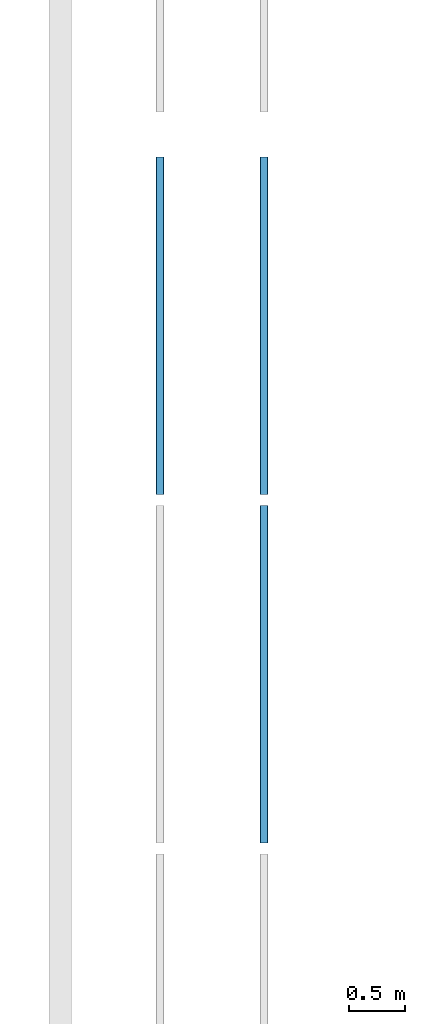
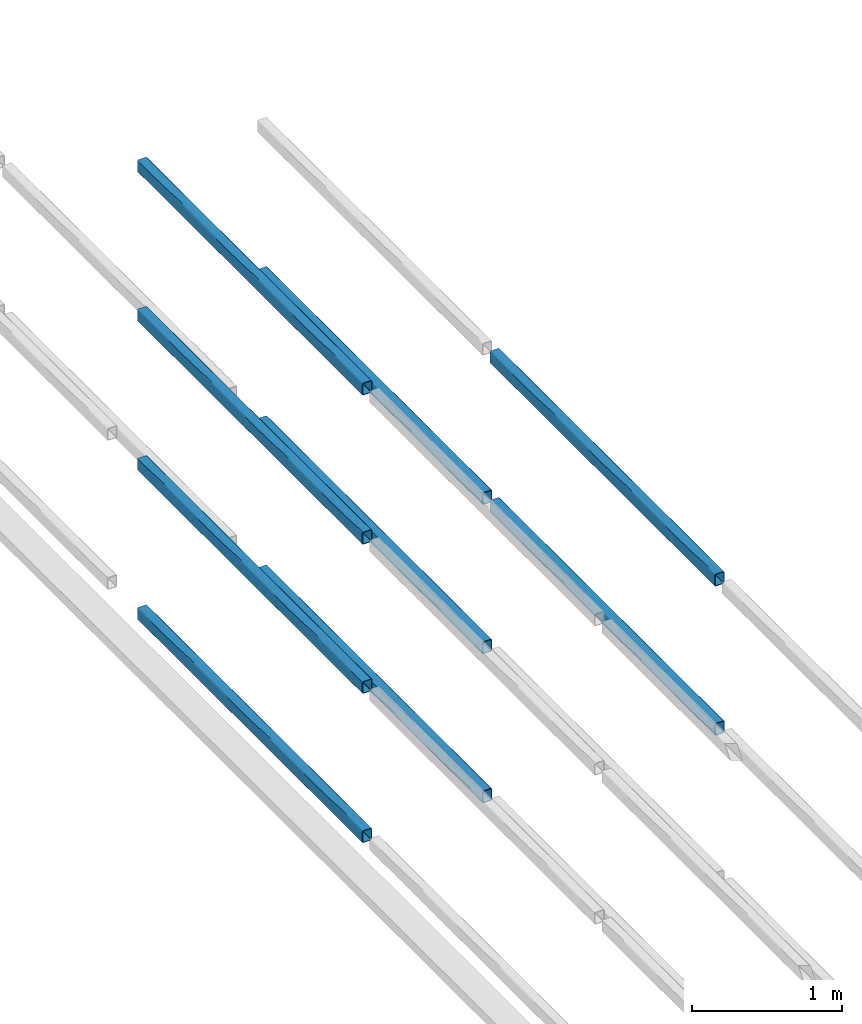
# One storey, part 16 of 290: 9 beams.
"""IFC2X3 building model written with IfcOpenShell, lengths in metres."""

from ifc_helpers import new_model, entity, si_unit, converted_unit, derived_unit, direction, frame, frame_2d, origin, place, context, subcontext, project, spatial, polyline, circle_curve, parameter, trimmed, segment, composite_curve, outline, extrude, material, type_object, element, save


model = new_model("IFC2X3")

# Units and contexts
model_context = context("Model", 3, precision=1e-05, world=origin(), true_north=direction((6.12303176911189e-17, 1.0)))
body_context = subcontext(model_context, "Body", "Model", "MODEL_VIEW")
ifc_project = project(units=[si_unit("LENGTHUNIT", "METRE"), si_unit("AREAUNIT", "SQUARE_METRE"), si_unit("VOLUMEUNIT", "CUBIC_METRE"), converted_unit("PLANEANGLEUNIT", "DEGREE", entity("IfcRatioMeasure", 0.0174532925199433), si_unit("PLANEANGLEUNIT", "RADIAN"), dimensions=[0, 0, 0, 0, 0, 0, 0]), si_unit("MASSUNIT", "GRAM", prefix="KILO"), derived_unit("MASSDENSITYUNIT", [(si_unit("MASSUNIT", "GRAM", prefix="KILO"), 1), (si_unit("LENGTHUNIT", "METRE"), -3)]), derived_unit("MOMENTOFINERTIAUNIT", [(si_unit("LENGTHUNIT", "METRE"), 4)]), si_unit("TIMEUNIT", "SECOND"), si_unit("FREQUENCYUNIT", "HERTZ"), si_unit("THERMODYNAMICTEMPERATUREUNIT", "DEGREE_CELSIUS"), derived_unit("THERMALTRANSMITTANCEUNIT", [(si_unit("MASSUNIT", "GRAM", prefix="KILO"), 1), (si_unit("THERMODYNAMICTEMPERATUREUNIT", "KELVIN"), -1), (si_unit("TIMEUNIT", "SECOND"), -3)]), derived_unit("VOLUMETRICFLOWRATEUNIT", [(si_unit("LENGTHUNIT", "METRE"), 3), (si_unit("TIMEUNIT", "SECOND"), -1)]), si_unit("ELECTRICCURRENTUNIT", "AMPERE"), si_unit("ELECTRICVOLTAGEUNIT", "VOLT"), si_unit("POWERUNIT", "WATT"), si_unit("FORCEUNIT", "NEWTON", prefix="KILO"), si_unit("ILLUMINANCEUNIT", "LUX"), si_unit("LUMINOUSFLUXUNIT", "LUMEN"), si_unit("LUMINOUSINTENSITYUNIT", "CANDELA"), derived_unit("USERDEFINED", [(si_unit("MASSUNIT", "GRAM", prefix="KILO"), -1), (si_unit("LENGTHUNIT", "METRE"), -2), (si_unit("TIMEUNIT", "SECOND"), 3), (si_unit("LUMINOUSFLUXUNIT", "LUMEN"), 1)]), derived_unit("LINEARVELOCITYUNIT", [(si_unit("LENGTHUNIT", "METRE"), 1), (si_unit("TIMEUNIT", "SECOND"), -1)]), si_unit("PRESSUREUNIT", "PASCAL"), derived_unit("USERDEFINED", [(si_unit("LENGTHUNIT", "METRE"), -2), (si_unit("MASSUNIT", "GRAM", prefix="KILO"), 1), (si_unit("TIMEUNIT", "SECOND"), -2)]), derived_unit("LINEARFORCEUNIT", [(si_unit("MASSUNIT", "GRAM", prefix="KILO"), 1), (si_unit("LENGTHUNIT", "METRE"), 1), (si_unit("TIMEUNIT", "SECOND"), -2), (si_unit("LENGTHUNIT", "METRE"), -1)]), derived_unit("PLANARFORCEUNIT", [(si_unit("MASSUNIT", "GRAM", prefix="KILO"), 1), (si_unit("LENGTHUNIT", "METRE"), 1), (si_unit("TIMEUNIT", "SECOND"), -2), (si_unit("LENGTHUNIT", "METRE"), -2)])], contexts=[model_context])

# Site, building, storey
site_placement = place(None, origin())
site = spatial("IfcSite", under=ifc_project, at=site_placement, Name="Default", CompositionType="ELEMENT")
building_placement = place(site_placement, origin())
building = spatial("IfcBuilding", under=site, at=building_placement, CompositionType="ELEMENT")
storey_placement = place(building_placement, frame((0.0, 0.0, 4.0)))
storey = spatial("IfcBuildingStorey", under=building, at=storey_placement, Name="01_OG", CompositionType="ELEMENT", Elevation=4.0)

# Beams
ifc_material = material(Name="Metall - Baustahl S235 blau")
beam_type = type_object("IfcBeamType", Name="RHS Träger (EN 10219-2):RHS 100 x 75 x 5", PredefinedType="NOTDEFINED")
beam_1_placement = place(storey_placement, frame((-205.565111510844, 48.848088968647, 1.23), z_axis=(0.0, 0.0, 1.0), x_axis=(0.0, 1.0, 0.0)))
element("IfcBeam", 1, at=beam_1_placement, inside=storey, type_object=beam_type, material=ifc_material, Name="RHS Träger (EN 10219-2):RHS 100 x 75 x 5", ObjectType="RHS Träger (EN 10219-2):RHS 100 x 75 x 5", context=body_context, shape_type="SweptSolid", body=[
    extrude(outline(composite_curve([segment(polyline([(-0.0399999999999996, -0.0374999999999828), (0.0399999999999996, -0.0374999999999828)]), True, "CONTINUOUS"), segment(trimmed(circle_curve(frame_2d((0.0399999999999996, -0.0274999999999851), x_axis=(0.0, 1.0)), 0.01), [parameter(180.0)], [parameter(270.0)], True, "PARAMETER"), True, "CONTINUOUS"), segment(polyline([(0.0500000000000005, -0.0274999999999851), (0.0500000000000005, 0.0274999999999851)]), True, "CONTINUOUS"), segment(trimmed(circle_curve(frame_2d((0.0399999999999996, 0.0274999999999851), x_axis=(0.0, 1.0)), 0.01), [parameter(270.0)], [parameter(4.07110999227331e-13)], True, "PARAMETER"), True, "CONTINUOUS"), segment(polyline([(0.0399999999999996, 0.0375000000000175), (-0.0399999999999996, 0.0375000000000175)]), True, "CONTINUOUS"), segment(trimmed(circle_curve(frame_2d((-0.0399999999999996, 0.0274999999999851), x_axis=(0.0, 1.0)), 0.01), [parameter(360.0)], [parameter(90.0000000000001)], True, "PARAMETER"), True, "CONTINUOUS"), segment(polyline([(-0.0499999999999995, 0.0274999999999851), (-0.0499999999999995, -0.0274999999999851)]), True, "CONTINUOUS"), segment(trimmed(circle_curve(frame_2d((-0.0399999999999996, -0.0274999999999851), x_axis=(0.0, 1.0)), 0.01), [parameter(90.0000000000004)], [parameter(180.0)], True, "PARAMETER"), True, "CONTINUOUS")], self_intersect=False), holes=[composite_curve([segment(trimmed(circle_curve(frame_2d((-0.0400000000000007, 0.0274999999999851), x_axis=(0.0, 1.0)), 0.005), [parameter(360.0)], [parameter(89.9999999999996)], True, "PARAMETER"), False, "CONTINUOUS"), segment(polyline([(-0.0400000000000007, 0.0325000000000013), (0.0399999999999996, 0.0325000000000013)]), True, "CONTINUOUS"), segment(trimmed(circle_curve(frame_2d((0.0399999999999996, 0.0274999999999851), x_axis=(0.0, 1.0)), 0.005), [parameter(270.0)], [parameter(0.0)], True, "PARAMETER"), False, "CONTINUOUS"), segment(polyline([(0.0449999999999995, 0.0274999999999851), (0.0449999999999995, -0.0274999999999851)]), True, "CONTINUOUS"), segment(trimmed(circle_curve(frame_2d((0.0399999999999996, -0.0274999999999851), x_axis=(0.0, 1.0)), 0.005), [parameter(180.0)], [parameter(269.999999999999)], True, "PARAMETER"), False, "CONTINUOUS"), segment(polyline([(0.0399999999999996, -0.0325000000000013), (-0.0400000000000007, -0.0325000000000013)]), True, "CONTINUOUS"), segment(trimmed(circle_curve(frame_2d((-0.0400000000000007, -0.0274999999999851), x_axis=(0.0, 1.0)), 0.005), [parameter(90.0000000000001)], [parameter(180.0)], True, "PARAMETER"), False, "CONTINUOUS"), segment(polyline([(-0.0450000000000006, -0.0274999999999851), (-0.0450000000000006, 0.0274999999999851)]), True, "CONTINUOUS")], self_intersect=False)]), frame((0.000100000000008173, -0.0375000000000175, -0.0500000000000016), z_axis=(1.0, 0.0, 0.0), x_axis=(0.0, 0.0, -1.0)), (0.0, 0.0, 1.0), 2.99979999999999),
])
beam_2_placement = place(storey_placement, frame((-205.565111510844, 48.848088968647, 2.445), z_axis=(0.0, 0.0, 1.0), x_axis=(0.0, 1.0, 0.0)))
element("IfcBeam", 2, at=beam_2_placement, inside=storey, type_object=beam_type, material=ifc_material, Name="RHS Träger (EN 10219-2):RHS 100 x 75 x 5", ObjectType="RHS Träger (EN 10219-2):RHS 100 x 75 x 5", context=body_context, shape_type="SweptSolid", body=[
    extrude(outline(composite_curve([segment(polyline([(-0.0399999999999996, -0.0374999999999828), (0.0399999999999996, -0.0374999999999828)]), True, "CONTINUOUS"), segment(trimmed(circle_curve(frame_2d((0.0399999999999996, -0.0274999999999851), x_axis=(0.0, 1.0)), 0.01), [parameter(180.0)], [parameter(270.0)], True, "PARAMETER"), True, "CONTINUOUS"), segment(polyline([(0.0500000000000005, -0.0274999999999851), (0.0500000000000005, 0.0274999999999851)]), True, "CONTINUOUS"), segment(trimmed(circle_curve(frame_2d((0.0399999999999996, 0.0274999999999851), x_axis=(0.0, 1.0)), 0.01), [parameter(270.0)], [parameter(4.07110999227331e-13)], True, "PARAMETER"), True, "CONTINUOUS"), segment(polyline([(0.0399999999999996, 0.0375000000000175), (-0.0399999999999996, 0.0375000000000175)]), True, "CONTINUOUS"), segment(trimmed(circle_curve(frame_2d((-0.0399999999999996, 0.0274999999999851), x_axis=(0.0, 1.0)), 0.01), [parameter(360.0)], [parameter(90.0000000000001)], True, "PARAMETER"), True, "CONTINUOUS"), segment(polyline([(-0.0499999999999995, 0.0274999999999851), (-0.0499999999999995, -0.0274999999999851)]), True, "CONTINUOUS"), segment(trimmed(circle_curve(frame_2d((-0.0399999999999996, -0.0274999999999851), x_axis=(0.0, 1.0)), 0.01), [parameter(90.0000000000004)], [parameter(180.0)], True, "PARAMETER"), True, "CONTINUOUS")], self_intersect=False), holes=[composite_curve([segment(trimmed(circle_curve(frame_2d((-0.0400000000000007, 0.0274999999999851), x_axis=(0.0, 1.0)), 0.005), [parameter(360.0)], [parameter(89.9999999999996)], True, "PARAMETER"), False, "CONTINUOUS"), segment(polyline([(-0.0400000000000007, 0.0325000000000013), (0.0399999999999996, 0.0325000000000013)]), True, "CONTINUOUS"), segment(trimmed(circle_curve(frame_2d((0.0399999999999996, 0.0274999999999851), x_axis=(0.0, 1.0)), 0.005), [parameter(270.0)], [parameter(0.0)], True, "PARAMETER"), False, "CONTINUOUS"), segment(polyline([(0.0449999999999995, 0.0274999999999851), (0.0449999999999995, -0.0274999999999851)]), True, "CONTINUOUS"), segment(trimmed(circle_curve(frame_2d((0.0399999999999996, -0.0274999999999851), x_axis=(0.0, 1.0)), 0.005), [parameter(180.0)], [parameter(269.999999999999)], True, "PARAMETER"), False, "CONTINUOUS"), segment(polyline([(0.0399999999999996, -0.0325000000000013), (-0.0400000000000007, -0.0325000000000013)]), True, "CONTINUOUS"), segment(trimmed(circle_curve(frame_2d((-0.0400000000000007, -0.0274999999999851), x_axis=(0.0, 1.0)), 0.005), [parameter(90.0000000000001)], [parameter(180.0)], True, "PARAMETER"), False, "CONTINUOUS"), segment(polyline([(-0.0450000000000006, -0.0274999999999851), (-0.0450000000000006, 0.0274999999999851)]), True, "CONTINUOUS")], self_intersect=False)]), frame((0.000100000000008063, -0.0375000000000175, -0.0500000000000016), z_axis=(1.0, 0.0, 0.0), x_axis=(0.0, 0.0, -1.0)), (0.0, 0.0, 1.0), 2.99979999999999),
])
beam_3_placement = place(storey_placement, frame((-206.415111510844, 51.948088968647, -1.2), z_axis=(0.0, 0.0, 1.0), x_axis=(0.0, 1.0, 0.0)))
element("IfcBeam", 3, at=beam_3_placement, inside=storey, type_object=beam_type, material=ifc_material, Name="RHS Träger (EN 10219-2):RHS 100 x 75 x 5", ObjectType="RHS Träger (EN 10219-2):RHS 100 x 75 x 5", context=body_context, shape_type="SweptSolid", body=[
    extrude(outline(composite_curve([segment(trimmed(circle_curve(frame_2d((-0.0274999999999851, -0.0400000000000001), x_axis=(1.0, 0.0)), 0.01), [parameter(180.0)], [parameter(270.0)], True, "PARAMETER"), True, "CONTINUOUS"), segment(polyline([(-0.0274999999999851, -0.05), (0.0274999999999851, -0.05)]), True, "CONTINUOUS"), segment(trimmed(circle_curve(frame_2d((0.0274999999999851, -0.0400000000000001), x_axis=(1.0, 0.0)), 0.01), [parameter(270.0)], [parameter(5.08888749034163e-14)], True, "PARAMETER"), True, "CONTINUOUS"), segment(polyline([(0.0375000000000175, -0.0400000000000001), (0.0375000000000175, 0.0400000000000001)]), True, "CONTINUOUS"), segment(trimmed(circle_curve(frame_2d((0.0274999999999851, 0.0400000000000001), x_axis=(1.0, 0.0)), 0.01), [parameter(360.0)], [parameter(89.9999999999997)], True, "PARAMETER"), True, "CONTINUOUS"), segment(polyline([(0.0274999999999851, 0.05), (-0.0274999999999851, 0.05)]), True, "CONTINUOUS"), segment(trimmed(circle_curve(frame_2d((-0.0274999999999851, 0.0400000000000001), x_axis=(1.0, 0.0)), 0.01), [parameter(90.0000000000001)], [parameter(180.0)], True, "PARAMETER"), True, "CONTINUOUS"), segment(polyline([(-0.0374999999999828, 0.0400000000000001), (-0.0374999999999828, -0.0400000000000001)]), True, "CONTINUOUS")], self_intersect=False), holes=[composite_curve([segment(polyline([(0.0274999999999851, -0.0450000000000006), (-0.0274999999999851, -0.0450000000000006)]), True, "CONTINUOUS"), segment(trimmed(circle_curve(frame_2d((-0.0274999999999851, -0.0400000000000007), x_axis=(1.0, 0.0)), 0.005), [parameter(180.0)], [parameter(270.0)], True, "PARAMETER"), False, "CONTINUOUS"), segment(polyline([(-0.0325000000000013, -0.0400000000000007), (-0.0325000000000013, 0.039999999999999)]), True, "CONTINUOUS"), segment(trimmed(circle_curve(frame_2d((-0.0274999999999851, 0.039999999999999), x_axis=(1.0, 0.0)), 0.005), [parameter(90.0000000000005)], [parameter(180.0)], True, "PARAMETER"), False, "CONTINUOUS"), segment(polyline([(-0.0274999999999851, 0.044999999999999), (0.0274999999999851, 0.044999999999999)]), True, "CONTINUOUS"), segment(trimmed(circle_curve(frame_2d((0.0274999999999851, 0.039999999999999), x_axis=(1.0, 0.0)), 0.005), [parameter(0.0)], [parameter(90.0000000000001)], True, "PARAMETER"), False, "CONTINUOUS"), segment(polyline([(0.0325000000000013, 0.039999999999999), (0.0325000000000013, -0.0400000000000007)]), True, "CONTINUOUS"), segment(trimmed(circle_curve(frame_2d((0.0274999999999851, -0.0400000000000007), x_axis=(1.0, 0.0)), 0.005), [parameter(270.0)], [parameter(4.07110999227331e-13)], True, "PARAMETER"), False, "CONTINUOUS")], self_intersect=False)]), frame((9.99999999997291e-05, 0.0375000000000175, -0.0500000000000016), z_axis=(1.0, 0.0, 0.0), x_axis=(0.0, -1.0, 0.0)), (0.0, 0.0, 1.0), 2.99979999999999),
])
beam_4_placement = place(storey_placement, frame((-206.415111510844, 51.948088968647, 0.0150000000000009), z_axis=(0.0, 0.0, 1.0), x_axis=(0.0, 1.0, 0.0)))
element("IfcBeam", 4, at=beam_4_placement, inside=storey, type_object=beam_type, material=ifc_material, Name="RHS Träger (EN 10219-2):RHS 100 x 75 x 5", ObjectType="RHS Träger (EN 10219-2):RHS 100 x 75 x 5", context=body_context, shape_type="SweptSolid", body=[
    extrude(outline(composite_curve([segment(trimmed(circle_curve(frame_2d((-0.0274999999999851, -0.0400000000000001), x_axis=(1.0, 0.0)), 0.01), [parameter(180.0)], [parameter(270.0)], True, "PARAMETER"), True, "CONTINUOUS"), segment(polyline([(-0.0274999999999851, -0.05), (0.0274999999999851, -0.05)]), True, "CONTINUOUS"), segment(trimmed(circle_curve(frame_2d((0.0274999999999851, -0.0400000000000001), x_axis=(1.0, 0.0)), 0.01), [parameter(270.0)], [parameter(5.08888749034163e-14)], True, "PARAMETER"), True, "CONTINUOUS"), segment(polyline([(0.0375000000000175, -0.0400000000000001), (0.0375000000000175, 0.0400000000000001)]), True, "CONTINUOUS"), segment(trimmed(circle_curve(frame_2d((0.0274999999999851, 0.0400000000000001), x_axis=(1.0, 0.0)), 0.01), [parameter(360.0)], [parameter(89.9999999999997)], True, "PARAMETER"), True, "CONTINUOUS"), segment(polyline([(0.0274999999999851, 0.05), (-0.0274999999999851, 0.05)]), True, "CONTINUOUS"), segment(trimmed(circle_curve(frame_2d((-0.0274999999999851, 0.0400000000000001), x_axis=(1.0, 0.0)), 0.01), [parameter(90.0000000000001)], [parameter(180.0)], True, "PARAMETER"), True, "CONTINUOUS"), segment(polyline([(-0.0374999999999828, 0.0400000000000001), (-0.0374999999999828, -0.0400000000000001)]), True, "CONTINUOUS")], self_intersect=False), holes=[composite_curve([segment(polyline([(0.0274999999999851, -0.0450000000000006), (-0.0274999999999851, -0.0450000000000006)]), True, "CONTINUOUS"), segment(trimmed(circle_curve(frame_2d((-0.0274999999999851, -0.0400000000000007), x_axis=(1.0, 0.0)), 0.005), [parameter(180.0)], [parameter(270.0)], True, "PARAMETER"), False, "CONTINUOUS"), segment(polyline([(-0.0325000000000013, -0.0400000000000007), (-0.0325000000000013, 0.039999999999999)]), True, "CONTINUOUS"), segment(trimmed(circle_curve(frame_2d((-0.0274999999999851, 0.039999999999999), x_axis=(1.0, 0.0)), 0.005), [parameter(90.0000000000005)], [parameter(180.0)], True, "PARAMETER"), False, "CONTINUOUS"), segment(polyline([(-0.0274999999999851, 0.044999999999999), (0.0274999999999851, 0.044999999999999)]), True, "CONTINUOUS"), segment(trimmed(circle_curve(frame_2d((0.0274999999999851, 0.039999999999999), x_axis=(1.0, 0.0)), 0.005), [parameter(0.0)], [parameter(90.0000000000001)], True, "PARAMETER"), False, "CONTINUOUS"), segment(polyline([(0.0325000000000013, 0.039999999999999), (0.0325000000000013, -0.0400000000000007)]), True, "CONTINUOUS"), segment(trimmed(circle_curve(frame_2d((0.0274999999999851, -0.0400000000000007), x_axis=(1.0, 0.0)), 0.005), [parameter(270.0)], [parameter(4.07110999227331e-13)], True, "PARAMETER"), False, "CONTINUOUS")], self_intersect=False)]), frame((9.99999999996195e-05, 0.0375000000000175, -0.0500000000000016), z_axis=(1.0, 0.0, 0.0), x_axis=(0.0, -1.0, 0.0)), (0.0, 0.0, 1.0), 2.99979999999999),
])
beam_5_placement = place(storey_placement, frame((-206.415111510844, 51.948088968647, 1.23), z_axis=(0.0, 0.0, 1.0), x_axis=(0.0, 1.0, 0.0)))
element("IfcBeam", 5, at=beam_5_placement, inside=storey, type_object=beam_type, material=ifc_material, Name="RHS Träger (EN 10219-2):RHS 100 x 75 x 5", ObjectType="RHS Träger (EN 10219-2):RHS 100 x 75 x 5", context=body_context, shape_type="SweptSolid", body=[
    extrude(outline(composite_curve([segment(trimmed(circle_curve(frame_2d((-0.0274999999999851, -0.0399999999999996), x_axis=(1.0, 0.0)), 0.01), [parameter(180.0)], [parameter(270.0)], True, "PARAMETER"), True, "CONTINUOUS"), segment(polyline([(-0.0274999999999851, -0.0499999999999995), (0.0274999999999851, -0.0499999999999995)]), True, "CONTINUOUS"), segment(trimmed(circle_curve(frame_2d((0.0274999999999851, -0.0399999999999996), x_axis=(1.0, 0.0)), 0.01), [parameter(270.0)], [parameter(5.08888749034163e-14)], True, "PARAMETER"), True, "CONTINUOUS"), segment(polyline([(0.0375000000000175, -0.0399999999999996), (0.0375000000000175, 0.0399999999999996)]), True, "CONTINUOUS"), segment(trimmed(circle_curve(frame_2d((0.0274999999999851, 0.0399999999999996), x_axis=(1.0, 0.0)), 0.01), [parameter(360.0)], [parameter(89.9999999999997)], True, "PARAMETER"), True, "CONTINUOUS"), segment(polyline([(0.0274999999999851, 0.0500000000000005), (-0.0274999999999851, 0.0500000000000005)]), True, "CONTINUOUS"), segment(trimmed(circle_curve(frame_2d((-0.0274999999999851, 0.0399999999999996), x_axis=(1.0, 0.0)), 0.01), [parameter(90.0000000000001)], [parameter(180.0)], True, "PARAMETER"), True, "CONTINUOUS"), segment(polyline([(-0.0374999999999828, 0.0399999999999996), (-0.0374999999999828, -0.0399999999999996)]), True, "CONTINUOUS")], self_intersect=False), holes=[composite_curve([segment(polyline([(0.0274999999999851, -0.0450000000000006), (-0.0274999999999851, -0.0450000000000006)]), True, "CONTINUOUS"), segment(trimmed(circle_curve(frame_2d((-0.0274999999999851, -0.0400000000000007), x_axis=(1.0, 0.0)), 0.005), [parameter(180.0)], [parameter(270.0)], True, "PARAMETER"), False, "CONTINUOUS"), segment(polyline([(-0.0325000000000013, -0.0400000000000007), (-0.0325000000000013, 0.0399999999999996)]), True, "CONTINUOUS"), segment(trimmed(circle_curve(frame_2d((-0.0274999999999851, 0.0399999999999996), x_axis=(1.0, 0.0)), 0.005), [parameter(90.0000000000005)], [parameter(180.0)], True, "PARAMETER"), False, "CONTINUOUS"), segment(polyline([(-0.0274999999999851, 0.0449999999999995), (0.0274999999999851, 0.0449999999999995)]), True, "CONTINUOUS"), segment(trimmed(circle_curve(frame_2d((0.0274999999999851, 0.0399999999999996), x_axis=(1.0, 0.0)), 0.005), [parameter(0.0)], [parameter(90.0000000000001)], True, "PARAMETER"), False, "CONTINUOUS"), segment(polyline([(0.0325000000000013, 0.0399999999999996), (0.0325000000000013, -0.0400000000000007)]), True, "CONTINUOUS"), segment(trimmed(circle_curve(frame_2d((0.0274999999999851, -0.0400000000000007), x_axis=(1.0, 0.0)), 0.005), [parameter(270.0)], [parameter(4.07110999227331e-13)], True, "PARAMETER"), False, "CONTINUOUS")], self_intersect=False)]), frame((9.99999999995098e-05, 0.0375000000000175, -0.0500000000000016), z_axis=(1.0, 0.0, 0.0), x_axis=(0.0, -1.0, 0.0)), (0.0, 0.0, 1.0), 2.99979999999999),
])
beam_6_placement = place(storey_placement, frame((-206.415111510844, 51.948088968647, 2.445), z_axis=(0.0, 0.0, 1.0), x_axis=(0.0, 1.0, 0.0)))
element("IfcBeam", 6, at=beam_6_placement, inside=storey, type_object=beam_type, material=ifc_material, Name="RHS Träger (EN 10219-2):RHS 100 x 75 x 5", ObjectType="RHS Träger (EN 10219-2):RHS 100 x 75 x 5", context=body_context, shape_type="SweptSolid", body=[
    extrude(outline(composite_curve([segment(trimmed(circle_curve(frame_2d((-0.0274999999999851, -0.0399999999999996), x_axis=(1.0, 0.0)), 0.01), [parameter(180.0)], [parameter(270.0)], True, "PARAMETER"), True, "CONTINUOUS"), segment(polyline([(-0.0274999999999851, -0.0499999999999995), (0.0274999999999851, -0.0499999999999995)]), True, "CONTINUOUS"), segment(trimmed(circle_curve(frame_2d((0.0274999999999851, -0.0399999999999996), x_axis=(1.0, 0.0)), 0.01), [parameter(270.0)], [parameter(5.08888749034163e-14)], True, "PARAMETER"), True, "CONTINUOUS"), segment(polyline([(0.0375000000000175, -0.0399999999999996), (0.0375000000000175, 0.0399999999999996)]), True, "CONTINUOUS"), segment(trimmed(circle_curve(frame_2d((0.0274999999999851, 0.0399999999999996), x_axis=(1.0, 0.0)), 0.01), [parameter(360.0)], [parameter(89.9999999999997)], True, "PARAMETER"), True, "CONTINUOUS"), segment(polyline([(0.0274999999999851, 0.0500000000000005), (-0.0274999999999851, 0.0500000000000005)]), True, "CONTINUOUS"), segment(trimmed(circle_curve(frame_2d((-0.0274999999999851, 0.0399999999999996), x_axis=(1.0, 0.0)), 0.01), [parameter(90.0000000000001)], [parameter(180.0)], True, "PARAMETER"), True, "CONTINUOUS"), segment(polyline([(-0.0374999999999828, 0.0399999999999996), (-0.0374999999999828, -0.0399999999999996)]), True, "CONTINUOUS")], self_intersect=False), holes=[composite_curve([segment(polyline([(0.0274999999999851, -0.0450000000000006), (-0.0274999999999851, -0.0450000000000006)]), True, "CONTINUOUS"), segment(trimmed(circle_curve(frame_2d((-0.0274999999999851, -0.0400000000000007), x_axis=(1.0, 0.0)), 0.005), [parameter(180.0)], [parameter(270.0)], True, "PARAMETER"), False, "CONTINUOUS"), segment(polyline([(-0.0325000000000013, -0.0400000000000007), (-0.0325000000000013, 0.0399999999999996)]), True, "CONTINUOUS"), segment(trimmed(circle_curve(frame_2d((-0.0274999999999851, 0.0399999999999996), x_axis=(1.0, 0.0)), 0.005), [parameter(90.0000000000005)], [parameter(180.0)], True, "PARAMETER"), False, "CONTINUOUS"), segment(polyline([(-0.0274999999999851, 0.0449999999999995), (0.0274999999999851, 0.0449999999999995)]), True, "CONTINUOUS"), segment(trimmed(circle_curve(frame_2d((0.0274999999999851, 0.0399999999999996), x_axis=(1.0, 0.0)), 0.005), [parameter(0.0)], [parameter(90.0000000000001)], True, "PARAMETER"), False, "CONTINUOUS"), segment(polyline([(0.0325000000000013, 0.0399999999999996), (0.0325000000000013, -0.0400000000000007)]), True, "CONTINUOUS"), segment(trimmed(circle_curve(frame_2d((0.0274999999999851, -0.0400000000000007), x_axis=(1.0, 0.0)), 0.005), [parameter(270.0)], [parameter(4.07110999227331e-13)], True, "PARAMETER"), False, "CONTINUOUS")], self_intersect=False)]), frame((9.99999999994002e-05, 0.0375000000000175, -0.0500000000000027), z_axis=(1.0, 0.0, 0.0), x_axis=(0.0, -1.0, 0.0)), (0.0, 0.0, 1.0), 2.99979999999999),
])
beam_7_placement = place(storey_placement, frame((-205.565111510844, 51.948088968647, -1.2), z_axis=(0.0, 0.0, 1.0), x_axis=(0.0, 1.0, 0.0)))
element("IfcBeam", 7, at=beam_7_placement, inside=storey, type_object=beam_type, material=ifc_material, Name="RHS Träger (EN 10219-2):RHS 100 x 75 x 5", ObjectType="RHS Träger (EN 10219-2):RHS 100 x 75 x 5", context=body_context, shape_type="SweptSolid", body=[
    extrude(outline(composite_curve([segment(polyline([(-0.0400000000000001, -0.0374999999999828), (0.0400000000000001, -0.0374999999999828)]), True, "CONTINUOUS"), segment(trimmed(circle_curve(frame_2d((0.0400000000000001, -0.0274999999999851), x_axis=(0.0, 1.0)), 0.01), [parameter(180.0)], [parameter(270.0)], True, "PARAMETER"), True, "CONTINUOUS"), segment(polyline([(0.05, -0.0274999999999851), (0.05, 0.0274999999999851)]), True, "CONTINUOUS"), segment(trimmed(circle_curve(frame_2d((0.0400000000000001, 0.0274999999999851), x_axis=(0.0, 1.0)), 0.01), [parameter(270.0)], [parameter(4.07110999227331e-13)], True, "PARAMETER"), True, "CONTINUOUS"), segment(polyline([(0.0400000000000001, 0.0375000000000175), (-0.0400000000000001, 0.0375000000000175)]), True, "CONTINUOUS"), segment(trimmed(circle_curve(frame_2d((-0.0400000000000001, 0.0274999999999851), x_axis=(0.0, 1.0)), 0.01), [parameter(360.0)], [parameter(90.0000000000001)], True, "PARAMETER"), True, "CONTINUOUS"), segment(polyline([(-0.05, 0.0274999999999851), (-0.05, -0.0274999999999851)]), True, "CONTINUOUS"), segment(trimmed(circle_curve(frame_2d((-0.0400000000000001, -0.0274999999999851), x_axis=(0.0, 1.0)), 0.01), [parameter(90.0000000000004)], [parameter(180.0)], True, "PARAMETER"), True, "CONTINUOUS")], self_intersect=False), holes=[composite_curve([segment(trimmed(circle_curve(frame_2d((-0.0400000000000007, 0.0274999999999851), x_axis=(0.0, 1.0)), 0.005), [parameter(360.0)], [parameter(89.9999999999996)], True, "PARAMETER"), False, "CONTINUOUS"), segment(polyline([(-0.0400000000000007, 0.0325000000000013), (0.039999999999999, 0.0325000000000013)]), True, "CONTINUOUS"), segment(trimmed(circle_curve(frame_2d((0.039999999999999, 0.0274999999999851), x_axis=(0.0, 1.0)), 0.005), [parameter(270.0)], [parameter(0.0)], True, "PARAMETER"), False, "CONTINUOUS"), segment(polyline([(0.044999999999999, 0.0274999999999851), (0.044999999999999, -0.0274999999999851)]), True, "CONTINUOUS"), segment(trimmed(circle_curve(frame_2d((0.039999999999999, -0.0274999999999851), x_axis=(0.0, 1.0)), 0.005), [parameter(180.0)], [parameter(269.999999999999)], True, "PARAMETER"), False, "CONTINUOUS"), segment(polyline([(0.039999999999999, -0.0325000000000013), (-0.0400000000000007, -0.0325000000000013)]), True, "CONTINUOUS"), segment(trimmed(circle_curve(frame_2d((-0.0400000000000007, -0.0274999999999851), x_axis=(0.0, 1.0)), 0.005), [parameter(90.0000000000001)], [parameter(180.0)], True, "PARAMETER"), False, "CONTINUOUS"), segment(polyline([(-0.0450000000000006, -0.0274999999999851), (-0.0450000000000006, 0.0274999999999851)]), True, "CONTINUOUS")], self_intersect=False)]), frame((9.99999999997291e-05, -0.0375000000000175, -0.0500000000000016), z_axis=(1.0, 0.0, 0.0), x_axis=(0.0, 0.0, -1.0)), (0.0, 0.0, 1.0), 2.99979999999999),
])
beam_8_placement = place(storey_placement, frame((-205.565111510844, 51.948088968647, 0.0150000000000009), z_axis=(0.0, 0.0, 1.0), x_axis=(0.0, 1.0, 0.0)))
element("IfcBeam", 8, at=beam_8_placement, inside=storey, type_object=beam_type, material=ifc_material, Name="RHS Träger (EN 10219-2):RHS 100 x 75 x 5", ObjectType="RHS Träger (EN 10219-2):RHS 100 x 75 x 5", context=body_context, shape_type="SweptSolid", body=[
    extrude(outline(composite_curve([segment(polyline([(-0.0400000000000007, -0.0374999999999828), (0.0399999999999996, -0.0374999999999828)]), True, "CONTINUOUS"), segment(trimmed(circle_curve(frame_2d((0.0399999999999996, -0.0274999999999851), x_axis=(0.0, 1.0)), 0.01), [parameter(180.0)], [parameter(270.0)], True, "PARAMETER"), True, "CONTINUOUS"), segment(polyline([(0.0499999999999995, -0.0274999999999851), (0.0499999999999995, 0.0274999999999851)]), True, "CONTINUOUS"), segment(trimmed(circle_curve(frame_2d((0.0399999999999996, 0.0274999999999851), x_axis=(0.0, 1.0)), 0.01), [parameter(270.0)], [parameter(4.07110999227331e-13)], True, "PARAMETER"), True, "CONTINUOUS"), segment(polyline([(0.0399999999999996, 0.0375000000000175), (-0.0400000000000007, 0.0375000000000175)]), True, "CONTINUOUS"), segment(trimmed(circle_curve(frame_2d((-0.0400000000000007, 0.0274999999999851), x_axis=(0.0, 1.0)), 0.01), [parameter(360.0)], [parameter(90.0000000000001)], True, "PARAMETER"), True, "CONTINUOUS"), segment(polyline([(-0.0500000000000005, 0.0274999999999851), (-0.0500000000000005, -0.0274999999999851)]), True, "CONTINUOUS"), segment(trimmed(circle_curve(frame_2d((-0.0400000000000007, -0.0274999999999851), x_axis=(0.0, 1.0)), 0.01), [parameter(90.0000000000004)], [parameter(180.0)], True, "PARAMETER"), True, "CONTINUOUS")], self_intersect=False), holes=[composite_curve([segment(trimmed(circle_curve(frame_2d((-0.0400000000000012, 0.0274999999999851), x_axis=(0.0, 1.0)), 0.005), [parameter(360.0)], [parameter(89.9999999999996)], True, "PARAMETER"), False, "CONTINUOUS"), segment(polyline([(-0.0400000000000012, 0.0325000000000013), (0.0399999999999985, 0.0325000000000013)]), True, "CONTINUOUS"), segment(trimmed(circle_curve(frame_2d((0.0399999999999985, 0.0274999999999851), x_axis=(0.0, 1.0)), 0.005), [parameter(270.0)], [parameter(0.0)], True, "PARAMETER"), False, "CONTINUOUS"), segment(polyline([(0.0449999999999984, 0.0274999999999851), (0.0449999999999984, -0.0274999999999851)]), True, "CONTINUOUS"), segment(trimmed(circle_curve(frame_2d((0.0399999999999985, -0.0274999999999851), x_axis=(0.0, 1.0)), 0.005), [parameter(180.0)], [parameter(269.999999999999)], True, "PARAMETER"), False, "CONTINUOUS"), segment(polyline([(0.0399999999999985, -0.0325000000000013), (-0.0400000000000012, -0.0325000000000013)]), True, "CONTINUOUS"), segment(trimmed(circle_curve(frame_2d((-0.0400000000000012, -0.0274999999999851), x_axis=(0.0, 1.0)), 0.005), [parameter(90.0000000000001)], [parameter(180.0)], True, "PARAMETER"), False, "CONTINUOUS"), segment(polyline([(-0.0450000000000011, -0.0274999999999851), (-0.0450000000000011, 0.0274999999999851)]), True, "CONTINUOUS")], self_intersect=False)]), frame((9.99999999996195e-05, -0.0375000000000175, -0.0500000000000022), z_axis=(1.0, 0.0, 0.0), x_axis=(0.0, 0.0, -1.0)), (0.0, 0.0, 1.0), 2.99979999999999),
])
beam_9_placement = place(storey_placement, frame((-205.565111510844, 51.948088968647, 1.23), z_axis=(0.0, 0.0, 1.0), x_axis=(0.0, 1.0, 0.0)))
element("IfcBeam", 9, at=beam_9_placement, inside=storey, type_object=beam_type, material=ifc_material, Name="RHS Träger (EN 10219-2):RHS 100 x 75 x 5", ObjectType="RHS Träger (EN 10219-2):RHS 100 x 75 x 5", context=body_context, shape_type="SweptSolid", body=[
    extrude(outline(composite_curve([segment(polyline([(-0.0399999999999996, -0.0374999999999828), (0.0399999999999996, -0.0374999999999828)]), True, "CONTINUOUS"), segment(trimmed(circle_curve(frame_2d((0.0399999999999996, -0.0274999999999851), x_axis=(0.0, 1.0)), 0.01), [parameter(180.0)], [parameter(270.0)], True, "PARAMETER"), True, "CONTINUOUS"), segment(polyline([(0.0500000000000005, -0.0274999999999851), (0.0500000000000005, 0.0274999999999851)]), True, "CONTINUOUS"), segment(trimmed(circle_curve(frame_2d((0.0399999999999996, 0.0274999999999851), x_axis=(0.0, 1.0)), 0.01), [parameter(270.0)], [parameter(4.07110999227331e-13)], True, "PARAMETER"), True, "CONTINUOUS"), segment(polyline([(0.0399999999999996, 0.0375000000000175), (-0.0399999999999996, 0.0375000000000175)]), True, "CONTINUOUS"), segment(trimmed(circle_curve(frame_2d((-0.0399999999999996, 0.0274999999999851), x_axis=(0.0, 1.0)), 0.01), [parameter(360.0)], [parameter(90.0000000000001)], True, "PARAMETER"), True, "CONTINUOUS"), segment(polyline([(-0.0499999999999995, 0.0274999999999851), (-0.0499999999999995, -0.0274999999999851)]), True, "CONTINUOUS"), segment(trimmed(circle_curve(frame_2d((-0.0399999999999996, -0.0274999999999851), x_axis=(0.0, 1.0)), 0.01), [parameter(90.0000000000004)], [parameter(180.0)], True, "PARAMETER"), True, "CONTINUOUS")], self_intersect=False), holes=[composite_curve([segment(trimmed(circle_curve(frame_2d((-0.0400000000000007, 0.0274999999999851), x_axis=(0.0, 1.0)), 0.005), [parameter(360.0)], [parameter(89.9999999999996)], True, "PARAMETER"), False, "CONTINUOUS"), segment(polyline([(-0.0400000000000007, 0.0325000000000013), (0.0399999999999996, 0.0325000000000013)]), True, "CONTINUOUS"), segment(trimmed(circle_curve(frame_2d((0.0399999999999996, 0.0274999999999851), x_axis=(0.0, 1.0)), 0.005), [parameter(270.0)], [parameter(0.0)], True, "PARAMETER"), False, "CONTINUOUS"), segment(polyline([(0.0449999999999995, 0.0274999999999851), (0.0449999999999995, -0.0274999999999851)]), True, "CONTINUOUS"), segment(trimmed(circle_curve(frame_2d((0.0399999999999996, -0.0274999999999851), x_axis=(0.0, 1.0)), 0.005), [parameter(180.0)], [parameter(269.999999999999)], True, "PARAMETER"), False, "CONTINUOUS"), segment(polyline([(0.0399999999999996, -0.0325000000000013), (-0.0400000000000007, -0.0325000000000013)]), True, "CONTINUOUS"), segment(trimmed(circle_curve(frame_2d((-0.0400000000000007, -0.0274999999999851), x_axis=(0.0, 1.0)), 0.005), [parameter(90.0000000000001)], [parameter(180.0)], True, "PARAMETER"), False, "CONTINUOUS"), segment(polyline([(-0.0450000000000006, -0.0274999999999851), (-0.0450000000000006, 0.0274999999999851)]), True, "CONTINUOUS")], self_intersect=False)]), frame((9.99999999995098e-05, -0.0375000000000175, -0.0500000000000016), z_axis=(1.0, 0.0, 0.0), x_axis=(0.0, 0.0, -1.0)), (0.0, 0.0, 1.0), 2.99979999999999),
])

save(model, "model.ifc")
